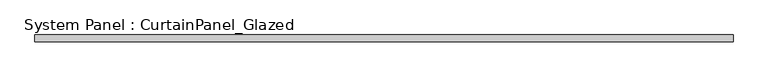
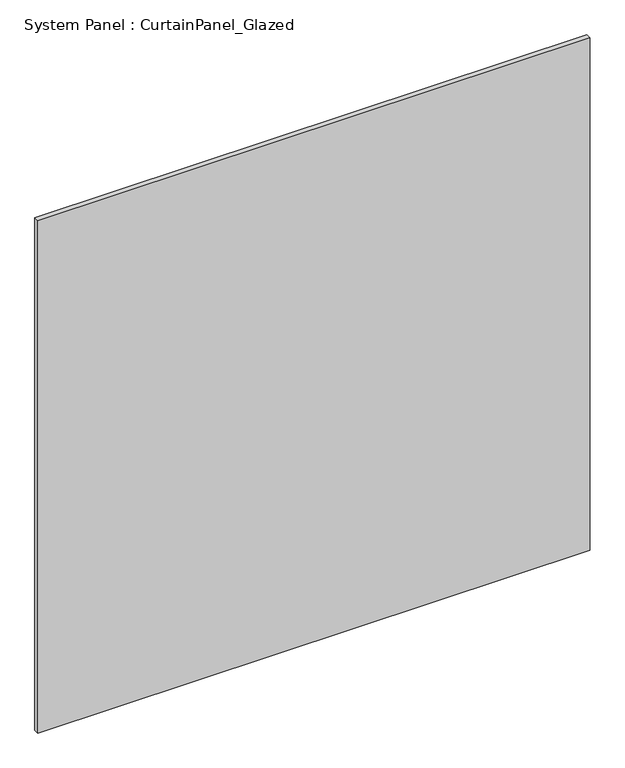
"""IFC4 building model written with IfcOpenShell, lengths in millimetres: plate geometry, System Panel : CurtainPanel_Glazed."""

from ifc_helpers import new_model, si_unit, origin, origin_with_axes, place, context, project, spatial, polyline, outline, extrude, source, transform, mapped, element, save


def system_panel_curtainpanel_glazed_ebc755d6(model_context):
    return source(origin(), model_context, "Body", "SweptSolid", [
        extrude(outline(polyline([(1301.0000001, -12.5), (-1301.0000001, -12.5), (-1301.0000001, 12.5), (1301.0000001, 12.5), (1301.0000001, -12.5)])), origin_with_axes(), (0.0, 0.0, 1.0), 2550.0),
    ])


if __name__ == "__main__":
    model = new_model("IFC4")
    model_context = context("Model", 3, world=origin())
    ifc_project = project(units=[si_unit("LENGTHUNIT", "METRE", prefix="MILLI")], contexts=[model_context])
    site = spatial("IfcSite", under=ifc_project)
    building = spatial("IfcBuilding", under=site)
    placement = place(None, origin())
    system_panel_curtainpanel_glazed_shape = system_panel_curtainpanel_glazed_ebc755d6(model_context)
    element("IfcPlate", 1, ObjectType="System Panel : CurtainPanel_Glazed", at=placement, inside=building, context=model_context, shape_type="MappedRepresentation", body=[
        mapped(system_panel_curtainpanel_glazed_shape, transform((0.0, 0.0, 0.0), x_axis=(1.0, 0.0, 0.0), y_axis=(0.0, 1.0, 0.0), z_axis=(0.0, 0.0, 1.0))),
    ])
    save(model, "model.ifc")
